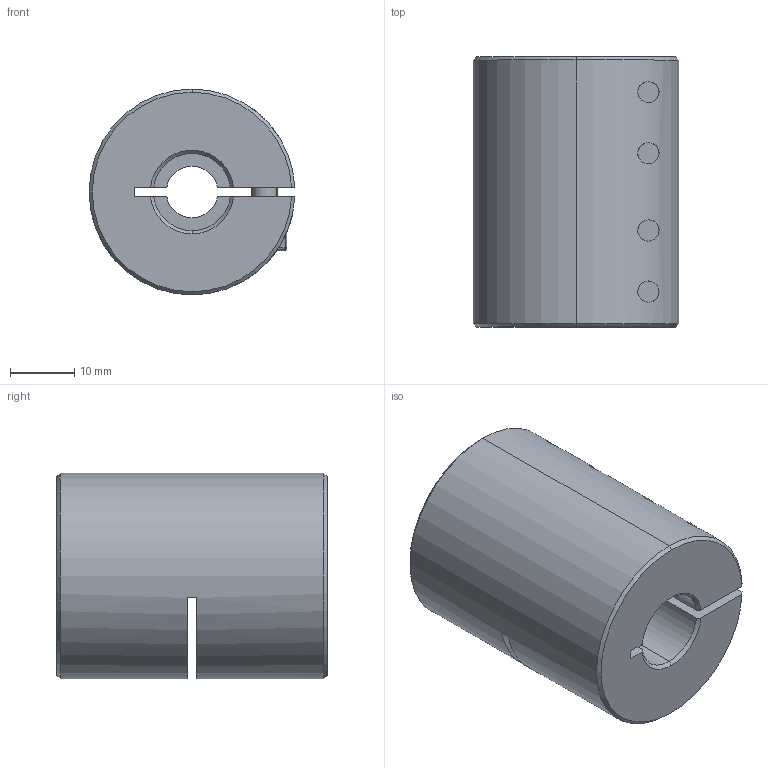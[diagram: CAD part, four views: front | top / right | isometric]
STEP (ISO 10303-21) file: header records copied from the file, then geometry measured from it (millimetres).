
FILE_DESCRIPTION (( 'STEP AP203' ), '1' );
FILE_NAME ('LL-B-D32L42-8-12.STEP', '2021-11-05T07:45:16', ( '' ), ( '' ), 'SwSTEP 2.0', 'SolidWorks 2018', '' );
FILE_SCHEMA (( 'CONFIG_CONTROL_DESIGN' ));
Length unit declared in the file: millimetre
Products named in the file (1): LL-B-D32L42-8-12
Bounding box: 31.98 x 42 x 32 mm (x, y, z)
Volume: 27927 mm3; surface area: 10326.3 mm2
Topology: 1 solids, 1 shells, 193 faces, 492 edges, 309 vertices
Faces by surface type: plane 88, cylinder 77, cone 20, torus 8
Entity records: 6376 total; most frequent: CARTESIAN_POINT 1559, DIRECTION 1037, ORIENTED_EDGE 968, EDGE_CURVE 484, AXIS2_PLACEMENT_3D 403, VERTEX_POINT 309, VECTOR 231, LINE 231
